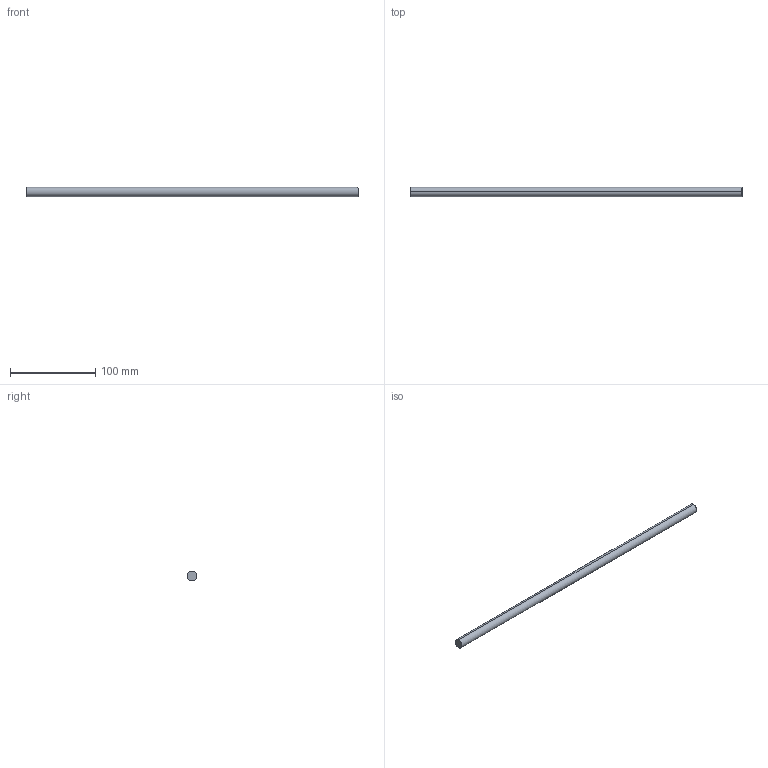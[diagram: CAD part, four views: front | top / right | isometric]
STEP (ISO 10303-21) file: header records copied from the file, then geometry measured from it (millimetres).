
FILE_DESCRIPTION (( 'STEP AP214' ), '1' );
FILE_NAME ('Querreling_Frontblende_Innenlade_KS-16_25mm-Halter_KAB-500.step', '2010-09-22T15:05:39', ( 'grass' ), ( '' ), 'SwSTEP 2.0', 'SolidWorks 2010', '' );
FILE_SCHEMA (( 'AUTOMOTIVE_DESIGN' ));
Length unit declared in the file: millimetre
Products named in the file (1): Querreling_Frontblende_Innenlade_KS-16_25mm-Halter_KAB-500
Bounding box: 390 x 11 x 11 mm (x, y, z)
Volume: 37062.9 mm3; surface area: 13667.5 mm2
Topology: 1 solids, 1 shells, 4 faces, 6 edges, 4 vertices
Faces by surface type: cylinder 2, plane 2
Entity records: 128 total; most frequent: DIRECTION 20, CARTESIAN_POINT 15, ORIENTED_EDGE 12, AXIS2_PLACEMENT_3D 9, EDGE_CURVE 6, EDGE_LOOP 4, FACE_OUTER_BOUND 4, CIRCLE 4
